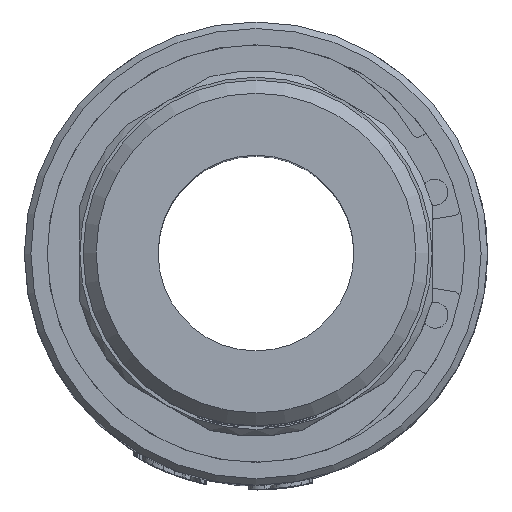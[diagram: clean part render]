
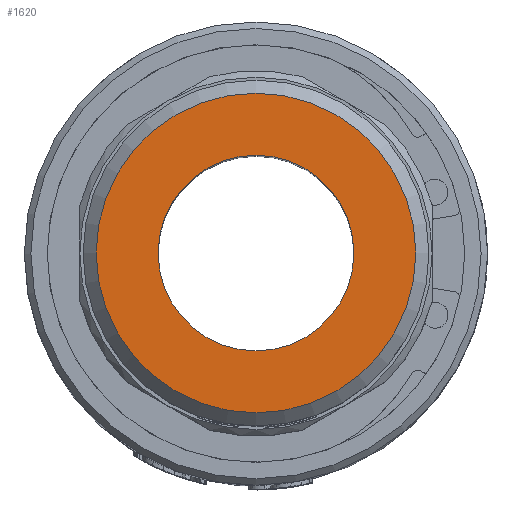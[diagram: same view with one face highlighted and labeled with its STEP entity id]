
A CAD part, top view. The second image highlights one B-rep face of the part: STEP entity #1620.
In plain terms, the highlighted planar face has unit normal (0, 0, 1).
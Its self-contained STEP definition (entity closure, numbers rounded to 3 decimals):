
#234=FACE_BOUND('',#3797,.T.);
#235=FACE_BOUND('',#3798,.T.);
#317=CIRCLE('',#17066,7.5);
#394=CIRCLE('',#17208,12.25);
#1620=ADVANCED_FACE('',(#234,#235),#2119,.T.);
#2119=PLANE('',#17209);
#3797=EDGE_LOOP('',(#8607));
#3798=EDGE_LOOP('',(#8608));
#8607=ORIENTED_EDGE('',*,*,#13837,.T.);
#8608=ORIENTED_EDGE('',*,*,#13687,.T.);
#11386=VERTEX_POINT('',#32600);
#11483=VERTEX_POINT('',#32990);
#13687=EDGE_CURVE('',#11386,#11386,#317,.T.);
#13837=EDGE_CURVE('',#11483,#11483,#394,.T.);
#17066=AXIS2_PLACEMENT_3D('',#32599,#18490,#18491);
#17208=AXIS2_PLACEMENT_3D('',#32989,#18821,#18822);
#17209=AXIS2_PLACEMENT_3D('',#32991,#18823,#18824);
#18490=DIRECTION('',(0.,0.,-1.));
#18491=DIRECTION('',(1.,0.,0.));
#18821=DIRECTION('',(0.,0.,1.));
#18822=DIRECTION('',(1.,0.,0.));
#18823=DIRECTION('',(0.,0.,1.));
#18824=DIRECTION('',(1.,0.,0.));
#32599=CARTESIAN_POINT('',(0.,0.,65.));
#32600=CARTESIAN_POINT('',(7.5,0.,65.));
#32989=CARTESIAN_POINT('',(0.,0.,65.));
#32990=CARTESIAN_POINT('',(12.25,0.,65.));
#32991=CARTESIAN_POINT('',(0.,0.,65.));
